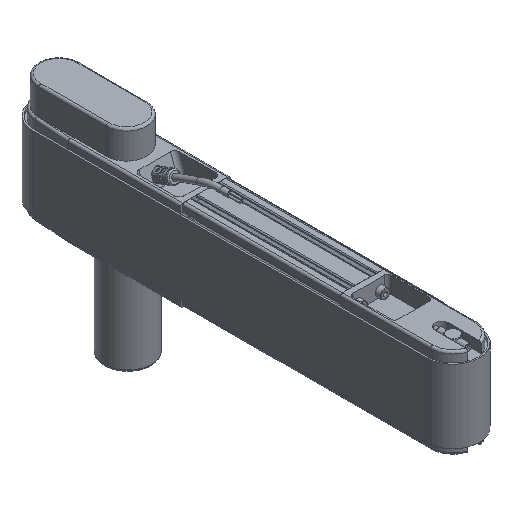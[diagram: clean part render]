
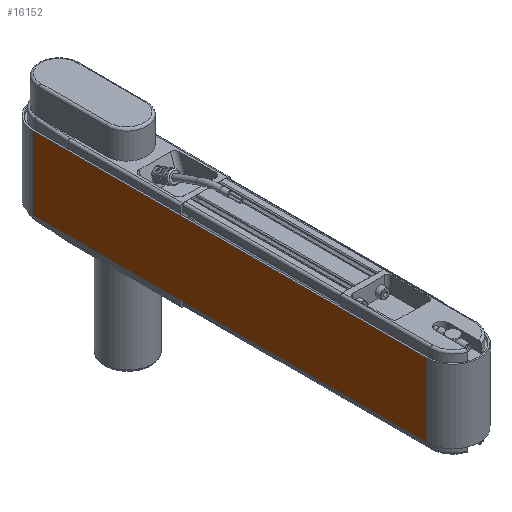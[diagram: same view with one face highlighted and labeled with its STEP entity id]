
A CAD part, isometric view. The second image highlights one B-rep face of the part: STEP entity #16152.
In plain terms, the highlighted planar face has unit normal (-1, 0, 0).
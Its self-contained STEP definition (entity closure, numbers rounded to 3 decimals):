
#507=PLANE('',#17216);
#1168=FACE_OUTER_BOUND('',#2059,.T.);
#2059=EDGE_LOOP('',(#10920,#10921,#10922,#10923));
#3057=LINE('',#24013,#4316);
#3060=LINE('',#24022,#4319);
#3063=LINE('',#24030,#4322);
#3064=LINE('',#24032,#4323);
#4316=VECTOR('',#19327,10.);
#4319=VECTOR('',#19336,10.);
#4322=VECTOR('',#19345,10.);
#4323=VECTOR('',#19348,10.);
#6469=VERTEX_POINT('',#24009);
#6471=VERTEX_POINT('',#24012);
#6473=VERTEX_POINT('',#24018);
#6476=VERTEX_POINT('',#24028);
#8189=EDGE_CURVE('',#6471,#6469,#3057,.T.);
#8194=EDGE_CURVE('',#6473,#6471,#3060,.T.);
#8198=EDGE_CURVE('',#6469,#6476,#3063,.T.);
#8199=EDGE_CURVE('',#6476,#6473,#3064,.T.);
#10920=ORIENTED_EDGE('',*,*,#8199,.T.);
#10921=ORIENTED_EDGE('',*,*,#8194,.T.);
#10922=ORIENTED_EDGE('',*,*,#8189,.T.);
#10923=ORIENTED_EDGE('',*,*,#8198,.T.);
#16152=ADVANCED_FACE('',(#1168),#507,.T.);
#17216=AXIS2_PLACEMENT_3D('',#24031,#19346,#19347);
#19327=DIRECTION('',(0.,-1.,0.));
#19336=DIRECTION('',(0.,0.,-1.));
#19345=DIRECTION('',(0.,0.,1.));
#19346=DIRECTION('center_axis',(-1.,0.,0.));
#19347=DIRECTION('ref_axis',(0.,0.,
1.));
#19348=DIRECTION('',(0.,1.,0.));
#24009=CARTESIAN_POINT('',(-23.3,-220.,-32.5));
#24012=CARTESIAN_POINT('',(-23.3,130.,-32.5));
#24013=CARTESIAN_POINT('',(-23.3,-220.,-32.5));
#24018=CARTESIAN_POINT('',(-23.3,130.,32.5));
#24022=CARTESIAN_POINT('',(-23.3,130.,0.));
#24028=CARTESIAN_POINT('',(-23.3,-220.,32.5));
#24030=CARTESIAN_POINT('',(-23.3,-220.,0.));
#24031=CARTESIAN_POINT('Origin',(-23.3,-220.,0.));
#24032=CARTESIAN_POINT('',(-23.3,-220.,32.5));
